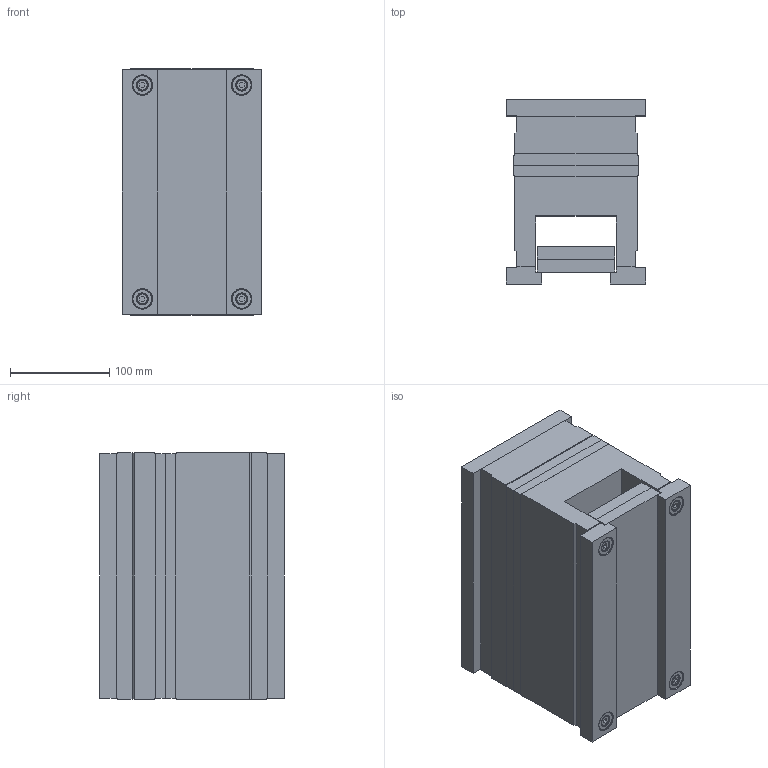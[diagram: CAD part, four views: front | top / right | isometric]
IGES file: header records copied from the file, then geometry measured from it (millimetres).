
Start section: SolidWorks IGES FILE using analytic representation for surfaces
Global section: file name: C:\Documents and Settings\K.P\My Documents\Mechanical\ALMO\CATL_EUR\RECT\1254.IGS; native system: SolidWorks 2001Plus by SolidWorks Corporation; preprocessor: Version 5.3; author: Pavel; date: 020709.091554; units: millimetre
Bounding box: 140 x 185.5 x 248 mm (x, y, z)
Surface area: 483231.2 mm2 (no closed solid volume)
Topology: 0 solids, 0 shells, 706 faces, 10312 edges, 10304 vertices
Faces by surface type: revolution 452, bspline 254
